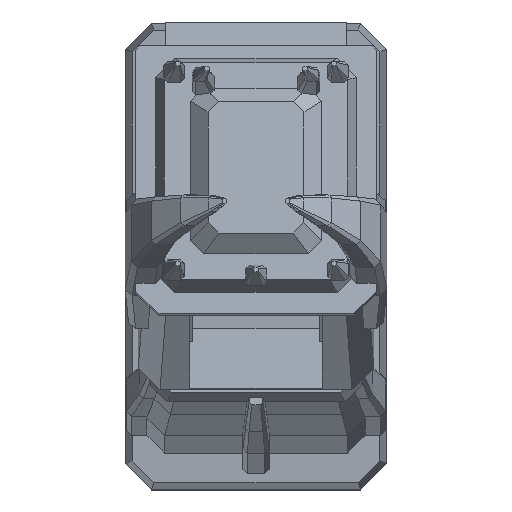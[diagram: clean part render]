
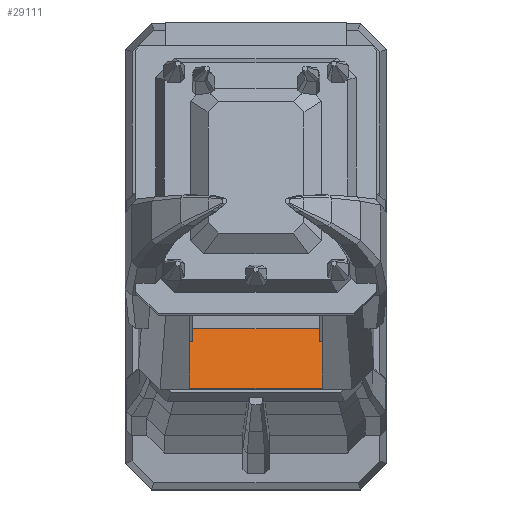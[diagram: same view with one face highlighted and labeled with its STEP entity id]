
A CAD part, top view. The second image highlights one B-rep face of the part: STEP entity #29111.
In plain terms, the highlighted planar face has unit normal (0, 0.208, 0.978).
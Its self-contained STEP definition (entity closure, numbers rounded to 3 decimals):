
#1655 = PLANE('',#1656);
#1656 = AXIS2_PLACEMENT_3D('',#1657,#1658,#1659);
#1657 = CARTESIAN_POINT('',(-9.2,-15.994,9.708));
#1658 = DIRECTION('',(0.,0.978,-0.208));
#1659 = DIRECTION('',(0.,0.208,0.978));
#2168 = PLANE('',#2169);
#2169 = AXIS2_PLACEMENT_3D('',#2170,#2171,#2172);
#2170 = CARTESIAN_POINT('',(7.6,-19.081,48.089));
#2171 = DIRECTION('',(1.,0.,0.));
#2172 = DIRECTION('',(0.,0.208,0.978));
#2255 = VERTEX_POINT('',#2256);
#2256 = CARTESIAN_POINT('',(7.6,-15.156,47.255));
#2292 = B_SPLINE_SURFACE_WITH_KNOTS('',1,1,(
    (#2293,#2294)
    ,(#2295,#2296
    )),.UNSPECIFIED.,.F.,.F.,.F.,(2,2),(2,2),(0.,22.),(0.,1.),
  .PIECEWISE_BEZIER_KNOTS.);
#2293 = CARTESIAN_POINT('',(-11.,-15.356,46.377));
#2294 = CARTESIAN_POINT('',(-10.3,-6.245,86.356));
#2295 = CARTESIAN_POINT('',(11.,-15.356,46.377));
#2296 = CARTESIAN_POINT('',(10.3,-6.245,86.356));
#2315 = EDGE_CURVE('',#2255,#2316,#2318,.T.);
#2316 = VERTEX_POINT('',#2317);
#2317 = CARTESIAN_POINT('',(7.6,-8.322,45.802));
#2318 = SURFACE_CURVE('',#2319,(#2323,#2330),.PCURVE_S1.);
#2319 = LINE('',#2320,#2321);
#2320 = CARTESIAN_POINT('',(7.6,-19.081,48.089));
#2321 = VECTOR('',#2322,1.);
#2322 = DIRECTION('',(0.,0.978,-0.208));
#2323 = PCURVE('',#2168,#2324);
#2324 = DEFINITIONAL_REPRESENTATION('',(#2325),#2329);
#2325 = LINE('',#2326,#2327);
#2326 = CARTESIAN_POINT('',(0.,0.));
#2327 = VECTOR('',#2328,1.);
#2328 = DIRECTION('',(0.,-1.));
#2329 = ( GEOMETRIC_REPRESENTATION_CONTEXT(2) 
PARAMETRIC_REPRESENTATION_CONTEXT() REPRESENTATION_CONTEXT('2D SPACE',''
  ) );
#2330 = PCURVE('',#2331,#2336);
#2331 = PLANE('',#2332);
#2332 = AXIS2_PLACEMENT_3D('',#2333,#2334,#2335);
#2333 = CARTESIAN_POINT('',(-7.6,-19.081,48.089));
#2334 = DIRECTION('',(0.,0.208,0.978));
#2335 = DIRECTION('',(1.,0.,0.));
#2336 = DEFINITIONAL_REPRESENTATION('',(#2337),#2341);
#2337 = LINE('',#2338,#2339);
#2338 = CARTESIAN_POINT('',(15.2,0.));
#2339 = VECTOR('',#2340,1.);
#2340 = DIRECTION('',(0.,1.));
#2341 = ( GEOMETRIC_REPRESENTATION_CONTEXT(2) 
PARAMETRIC_REPRESENTATION_CONTEXT() REPRESENTATION_CONTEXT('2D SPACE',''
  ) );
#2538 = EDGE_CURVE('',#2255,#2539,#2541,.T.);
#2539 = VERTEX_POINT('',#2540);
#2540 = CARTESIAN_POINT('',(-7.6,-15.156,47.255));
#2541 = SURFACE_CURVE('',#2542,(#2545,#2551),.PCURVE_S1.);
#2542 = B_SPLINE_CURVE_WITH_KNOTS('',1,(#2543,#2544),.UNSPECIFIED.,.F.,
  .F.,(2,2),(0.,1.),.PIECEWISE_BEZIER_KNOTS.);
#2543 = CARTESIAN_POINT('',(7.6,-15.156,47.255));
#2544 = CARTESIAN_POINT('',(-7.6,-15.156,47.255));
#2545 = PCURVE('',#2292,#2546);
#2546 = DEFINITIONAL_REPRESENTATION('',(#2547),#2550);
#2547 = B_SPLINE_CURVE_WITH_KNOTS('',1,(#2548,#2549),.UNSPECIFIED.,.F.,
  .F.,(2,2),(0.,1.),.PIECEWISE_BEZIER_KNOTS.);
#2548 = CARTESIAN_POINT('',(18.611,0.022));
#2549 = CARTESIAN_POINT('',(3.389,0.022));
#2550 = ( GEOMETRIC_REPRESENTATION_CONTEXT(2) 
PARAMETRIC_REPRESENTATION_CONTEXT() REPRESENTATION_CONTEXT('2D SPACE',''
  ) );
#2551 = PCURVE('',#2331,#2552);
#2552 = DEFINITIONAL_REPRESENTATION('',(#2553),#2556);
#2553 = B_SPLINE_CURVE_WITH_KNOTS('',1,(#2554,#2555),.UNSPECIFIED.,.F.,
  .F.,(2,2),(0.,1.),.PIECEWISE_BEZIER_KNOTS.);
#2554 = CARTESIAN_POINT('',(15.2,4.013));
#2555 = CARTESIAN_POINT('',(0.,4.013));
#2556 = ( GEOMETRIC_REPRESENTATION_CONTEXT(2) 
PARAMETRIC_REPRESENTATION_CONTEXT() REPRESENTATION_CONTEXT('2D SPACE',''
  ) );
#2596 = PLANE('',#2597);
#2597 = AXIS2_PLACEMENT_3D('',#2598,#2599,#2600);
#2598 = CARTESIAN_POINT('',(-7.6,-19.081,48.089));
#2599 = DIRECTION('',(1.,0.,0.));
#2600 = DIRECTION('',(0.,0.208,0.978));
#2665 = EDGE_CURVE('',#2539,#2666,#2668,.T.);
#2666 = VERTEX_POINT('',#2667);
#2667 = CARTESIAN_POINT('',(-7.6,-8.322,45.802));
#2668 = SURFACE_CURVE('',#2669,(#2673,#2680),.PCURVE_S1.);
#2669 = LINE('',#2670,#2671);
#2670 = CARTESIAN_POINT('',(-7.6,-19.081,48.089));
#2671 = VECTOR('',#2672,1.);
#2672 = DIRECTION('',(0.,0.978,-0.208));
#2673 = PCURVE('',#2596,#2674);
#2674 = DEFINITIONAL_REPRESENTATION('',(#2675),#2679);
#2675 = LINE('',#2676,#2677);
#2676 = CARTESIAN_POINT('',(0.,0.));
#2677 = VECTOR('',#2678,1.);
#2678 = DIRECTION('',(0.,-1.));
#2679 = ( GEOMETRIC_REPRESENTATION_CONTEXT(2) 
PARAMETRIC_REPRESENTATION_CONTEXT() REPRESENTATION_CONTEXT('2D SPACE',''
  ) );
#2680 = PCURVE('',#2331,#2681);
#2681 = DEFINITIONAL_REPRESENTATION('',(#2682),#2686);
#2682 = LINE('',#2683,#2684);
#2683 = CARTESIAN_POINT('',(0.,0.));
#2684 = VECTOR('',#2685,1.);
#2685 = DIRECTION('',(0.,1.));
#2686 = ( GEOMETRIC_REPRESENTATION_CONTEXT(2) 
PARAMETRIC_REPRESENTATION_CONTEXT() REPRESENTATION_CONTEXT('2D SPACE',''
  ) );
#29111 = ADVANCED_FACE('',(#29112),#2331,.T.);
#29112 = FACE_BOUND('',#29113,.T.);
#29113 = EDGE_LOOP('',(#29114,#29115,#29116,#29117));
#29114 = ORIENTED_EDGE('',*,*,#2665,.F.);
#29115 = ORIENTED_EDGE('',*,*,#2538,.F.);
#29116 = ORIENTED_EDGE('',*,*,#2315,.T.);
#29117 = ORIENTED_EDGE('',*,*,#29118,.F.);
#29118 = EDGE_CURVE('',#2666,#2316,#29119,.T.);
#29119 = SURFACE_CURVE('',#29120,(#29124,#29130),.PCURVE_S1.);
#29120 = LINE('',#29121,#29122);
#29121 = CARTESIAN_POINT('',(-8.4,-8.322,45.802));
#29122 = VECTOR('',#29123,1.);
#29123 = DIRECTION('',(1.,-0.,0.));
#29124 = PCURVE('',#2331,#29125);
#29125 = DEFINITIONAL_REPRESENTATION('',(#29126),#29129);
#29126 = B_SPLINE_CURVE_WITH_KNOTS('',1,(#29127,#29128),.UNSPECIFIED.,
  .F.,.F.,(2,2),(0.8,16.),.PIECEWISE_BEZIER_KNOTS.);
#29127 = CARTESIAN_POINT('',(0.,11.));
#29128 = CARTESIAN_POINT('',(15.2,11.));
#29129 = ( GEOMETRIC_REPRESENTATION_CONTEXT(2) 
PARAMETRIC_REPRESENTATION_CONTEXT() REPRESENTATION_CONTEXT('2D SPACE',''
  ) );
#29130 = PCURVE('',#1655,#29131);
#29131 = DEFINITIONAL_REPRESENTATION('',(#29132),#29136);
#29132 = LINE('',#29133,#29134);
#29133 = CARTESIAN_POINT('',(36.9,0.8));
#29134 = VECTOR('',#29135,1.);
#29135 = DIRECTION('',(0.,1.));
#29136 = ( GEOMETRIC_REPRESENTATION_CONTEXT(2) 
PARAMETRIC_REPRESENTATION_CONTEXT() REPRESENTATION_CONTEXT('2D SPACE',''
  ) );
